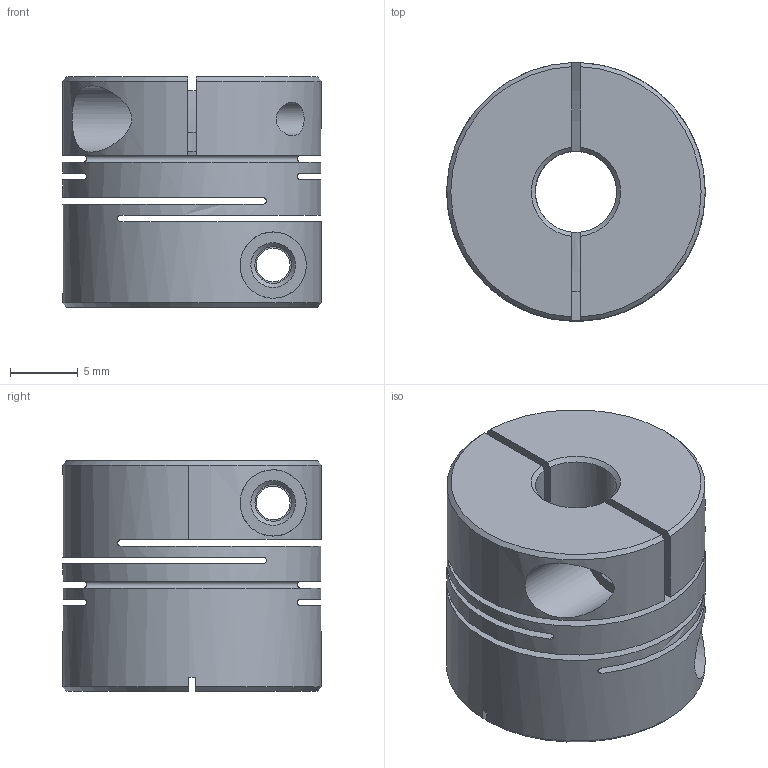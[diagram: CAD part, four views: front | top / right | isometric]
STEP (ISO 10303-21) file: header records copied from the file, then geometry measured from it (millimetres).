
FILE_DESCRIPTION( ( 'Unknown' ), '1' );
FILE_NAME( 'D:/3D/目敲傅/SRBM Type/C Type/SRBM-19C.stp', 'Unknown', ( 'Unknown' ), ( 'Unknown' ), 'XStep 1.0', 'Unknown', ' ' );
FILE_SCHEMA( ( 'CONFIG_CONTROL_DESIGN' ) );
Length unit declared in the file: millimetre
Products named in the file (1): 1
Bounding box: 19.1 x 19.1 x 17 mm (x, y, z)
Volume: 3590.1 mm3; surface area: 3821.5 mm2
Topology: 1 solids, 1 shells, 57 faces, 161 edges, 108 vertices
Faces by surface type: plane 24, cylinder 23, cone 10
Full cylindrical faces by diameter (mm): 2.5 x3, 2.7 x3, 4.9 x2, 6 x2, 7 x3, 19.1 x1
Entity records: 1984 total; most frequent: CARTESIAN_POINT 615, DIRECTION 264, ORIENTED_EDGE 256, EDGE_CURVE 128, AXIS2_PLACEMENT_3D 113, EDGE_LOOP 94, VERTEX_POINT 94, FACE_OUTER_BOUND 70
